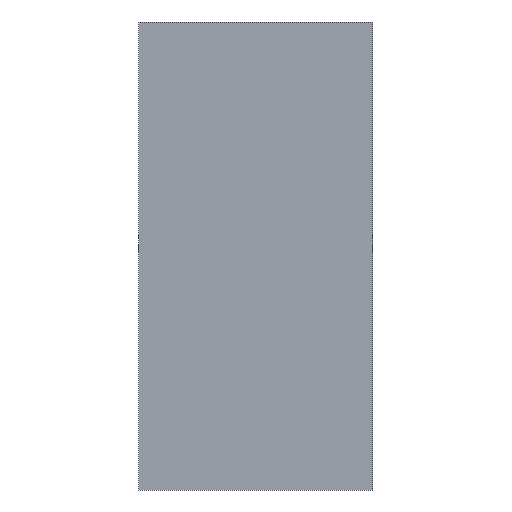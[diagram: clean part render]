
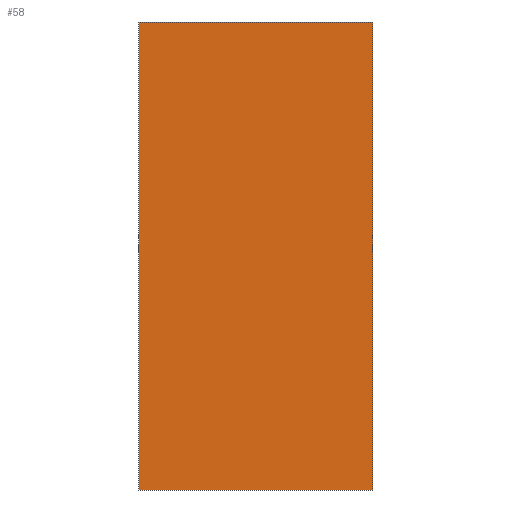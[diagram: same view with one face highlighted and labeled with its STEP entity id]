
A CAD part, left-side view. The second image highlights one B-rep face of the part: STEP entity #58.
In plain terms, the highlighted planar face has unit normal (-1, 0, 0).
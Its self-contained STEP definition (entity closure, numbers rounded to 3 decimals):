
#58 = ADVANCED_FACE('',(#59),#73,.F.);
#59 = FACE_BOUND('',#60,.F.);
#60 = EDGE_LOOP('',(#61,#96,#124,#152));
#61 = ORIENTED_EDGE('',*,*,#62,.F.);
#62 = EDGE_CURVE('',#63,#65,#67,.T.);
#63 = VERTEX_POINT('',#64);
#64 = CARTESIAN_POINT('',(0.,0.,0.));
#65 = VERTEX_POINT('',#66);
#66 = CARTESIAN_POINT('',(0.,0.,16.));
#67 = SURFACE_CURVE('',#68,(#72,#84),.PCURVE_S1.);
#68 = LINE('',#69,#70);
#69 = CARTESIAN_POINT('',(0.,0.,0.));
#70 = VECTOR('',#71,1.);
#71 = DIRECTION('',(0.,0.,1.));
#72 = PCURVE('',#73,#78);
#73 = PLANE('',#74);
#74 = AXIS2_PLACEMENT_3D('',#75,#76,#77);
#75 = CARTESIAN_POINT('',(0.,0.,0.));
#76 = DIRECTION('',(1.,0.,-0.));
#77 = DIRECTION('',(0.,0.,1.));
#78 = DEFINITIONAL_REPRESENTATION('',(#79),#83);
#79 = LINE('',#80,#81);
#80 = CARTESIAN_POINT('',(0.,0.));
#81 = VECTOR('',#82,1.);
#82 = DIRECTION('',(1.,0.));
#83 = ( GEOMETRIC_REPRESENTATION_CONTEXT(2) 
PARAMETRIC_REPRESENTATION_CONTEXT() REPRESENTATION_CONTEXT('2D SPACE',''
  ) );
#84 = PCURVE('',#85,#90);
#85 = PLANE('',#86);
#86 = AXIS2_PLACEMENT_3D('',#87,#88,#89);
#87 = CARTESIAN_POINT('',(0.,0.,0.));
#88 = DIRECTION('',(-0.,1.,0.));
#89 = DIRECTION('',(0.,0.,1.));
#90 = DEFINITIONAL_REPRESENTATION('',(#91),#95);
#91 = LINE('',#92,#93);
#92 = CARTESIAN_POINT('',(0.,0.));
#93 = VECTOR('',#94,1.);
#94 = DIRECTION('',(1.,0.));
#95 = ( GEOMETRIC_REPRESENTATION_CONTEXT(2) 
PARAMETRIC_REPRESENTATION_CONTEXT() REPRESENTATION_CONTEXT('2D SPACE',''
  ) );
#96 = ORIENTED_EDGE('',*,*,#97,.T.);
#97 = EDGE_CURVE('',#63,#98,#100,.T.);
#98 = VERTEX_POINT('',#99);
#99 = CARTESIAN_POINT('',(0.,8.,0.));
#100 = SURFACE_CURVE('',#101,(#105,#112),.PCURVE_S1.);
#101 = LINE('',#102,#103);
#102 = CARTESIAN_POINT('',(0.,0.,0.));
#103 = VECTOR('',#104,1.);
#104 = DIRECTION('',(-0.,1.,0.));
#105 = PCURVE('',#73,#106);
#106 = DEFINITIONAL_REPRESENTATION('',(#107),#111);
#107 = LINE('',#108,#109);
#108 = CARTESIAN_POINT('',(0.,0.));
#109 = VECTOR('',#110,1.);
#110 = DIRECTION('',(0.,-1.));
#111 = ( GEOMETRIC_REPRESENTATION_CONTEXT(2) 
PARAMETRIC_REPRESENTATION_CONTEXT() REPRESENTATION_CONTEXT('2D SPACE',''
  ) );
#112 = PCURVE('',#113,#118);
#113 = PLANE('',#114);
#114 = AXIS2_PLACEMENT_3D('',#115,#116,#117);
#115 = CARTESIAN_POINT('',(0.,0.,0.));
#116 = DIRECTION('',(0.,0.,1.));
#117 = DIRECTION('',(1.,0.,-0.));
#118 = DEFINITIONAL_REPRESENTATION('',(#119),#123);
#119 = LINE('',#120,#121);
#120 = CARTESIAN_POINT('',(0.,0.));
#121 = VECTOR('',#122,1.);
#122 = DIRECTION('',(0.,1.));
#123 = ( GEOMETRIC_REPRESENTATION_CONTEXT(2) 
PARAMETRIC_REPRESENTATION_CONTEXT() REPRESENTATION_CONTEXT('2D SPACE',''
  ) );
#124 = ORIENTED_EDGE('',*,*,#125,.T.);
#125 = EDGE_CURVE('',#98,#126,#128,.T.);
#126 = VERTEX_POINT('',#127);
#127 = CARTESIAN_POINT('',(0.,8.,16.));
#128 = SURFACE_CURVE('',#129,(#133,#140),.PCURVE_S1.);
#129 = LINE('',#130,#131);
#130 = CARTESIAN_POINT('',(0.,8.,0.));
#131 = VECTOR('',#132,1.);
#132 = DIRECTION('',(0.,0.,1.));
#133 = PCURVE('',#73,#134);
#134 = DEFINITIONAL_REPRESENTATION('',(#135),#139);
#135 = LINE('',#136,#137);
#136 = CARTESIAN_POINT('',(0.,-8.));
#137 = VECTOR('',#138,1.);
#138 = DIRECTION('',(1.,0.));
#139 = ( GEOMETRIC_REPRESENTATION_CONTEXT(2) 
PARAMETRIC_REPRESENTATION_CONTEXT() REPRESENTATION_CONTEXT('2D SPACE',''
  ) );
#140 = PCURVE('',#141,#146);
#141 = PLANE('',#142);
#142 = AXIS2_PLACEMENT_3D('',#143,#144,#145);
#143 = CARTESIAN_POINT('',(0.,8.,0.));
#144 = DIRECTION('',(-0.,1.,0.));
#145 = DIRECTION('',(0.,0.,1.));
#146 = DEFINITIONAL_REPRESENTATION('',(#147),#151);
#147 = LINE('',#148,#149);
#148 = CARTESIAN_POINT('',(0.,0.));
#149 = VECTOR('',#150,1.);
#150 = DIRECTION('',(1.,0.));
#151 = ( GEOMETRIC_REPRESENTATION_CONTEXT(2) 
PARAMETRIC_REPRESENTATION_CONTEXT() REPRESENTATION_CONTEXT('2D SPACE',''
  ) );
#152 = ORIENTED_EDGE('',*,*,#153,.F.);
#153 = EDGE_CURVE('',#65,#126,#154,.T.);
#154 = SURFACE_CURVE('',#155,(#159,#166),.PCURVE_S1.);
#155 = LINE('',#156,#157);
#156 = CARTESIAN_POINT('',(0.,0.,16.));
#157 = VECTOR('',#158,1.);
#158 = DIRECTION('',(-0.,1.,0.));
#159 = PCURVE('',#73,#160);
#160 = DEFINITIONAL_REPRESENTATION('',(#161),#165);
#161 = LINE('',#162,#163);
#162 = CARTESIAN_POINT('',(16.,0.));
#163 = VECTOR('',#164,1.);
#164 = DIRECTION('',(0.,-1.));
#165 = ( GEOMETRIC_REPRESENTATION_CONTEXT(2) 
PARAMETRIC_REPRESENTATION_CONTEXT() REPRESENTATION_CONTEXT('2D SPACE',''
  ) );
#166 = PCURVE('',#167,#172);
#167 = PLANE('',#168);
#168 = AXIS2_PLACEMENT_3D('',#169,#170,#171);
#169 = CARTESIAN_POINT('',(0.,0.,16.));
#170 = DIRECTION('',(0.,0.,1.));
#171 = DIRECTION('',(1.,0.,-0.));
#172 = DEFINITIONAL_REPRESENTATION('',(#173),#177);
#173 = LINE('',#174,#175);
#174 = CARTESIAN_POINT('',(0.,0.));
#175 = VECTOR('',#176,1.);
#176 = DIRECTION('',(0.,1.));
#177 = ( GEOMETRIC_REPRESENTATION_CONTEXT(2) 
PARAMETRIC_REPRESENTATION_CONTEXT() REPRESENTATION_CONTEXT('2D SPACE',''
  ) );
